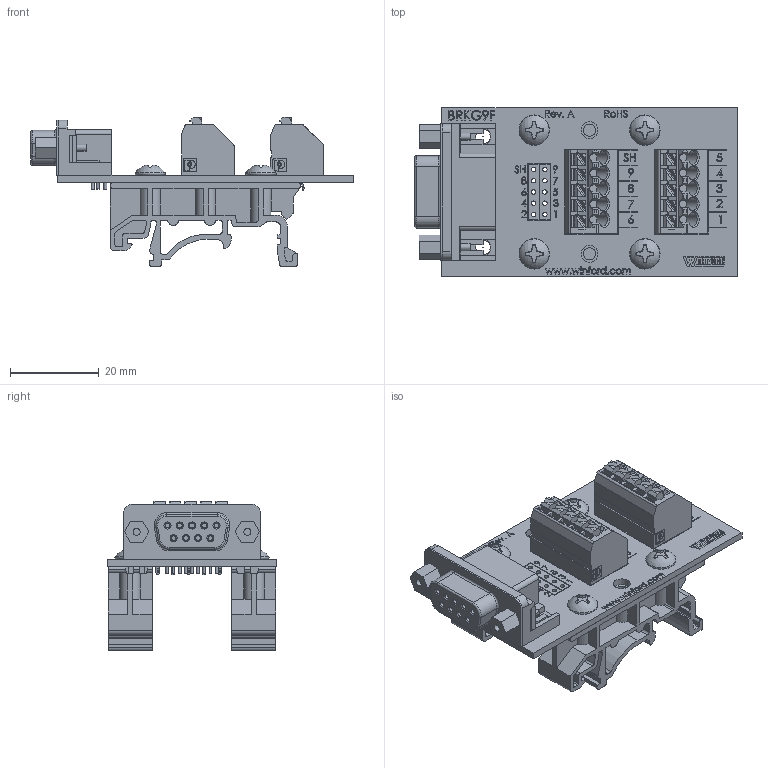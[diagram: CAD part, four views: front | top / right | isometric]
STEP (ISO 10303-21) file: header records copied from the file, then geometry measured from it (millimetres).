
FILE_DESCRIPTION (( 'STEP AP214' ), '1' );
FILE_NAME ('brkg9f-r-din_rev_a.step', '2017-05-12T02:02:47', ( '' ), ( '' ), 'SwSTEP 2.0', 'SolidWorks 2017', '' );
FILE_SCHEMA (( 'AUTOMOTIVE_DESIGN' ));
Length unit declared in the file: inch
Products named in the file (6): dinm01; Spring Terminal; BRKG9F Board; Screw_SCSMPP-6-0.375_90184A127; brkg9f-r-din_rev_a; Right Angle Female Connector
Assembly tree (10 placements, depth 2):
  brkg9f-r-din_rev_a
    BRKG9F Board
    dinm01  x2
    Right Angle Female Connector
    Screw_SCSMPP-6-0.375_90184A127  x4
    Spring Terminal  x2
Bounding box: 72.8 x 38.1 x 33.67 mm (x, y, z)
Volume: 17484 mm3; surface area: 22015 mm2
Topology: 25 solids, 25 shells, 2762 faces, 7459 edges, 4928 vertices
Faces by surface type: plane 1769, cylinder 526, bspline 358, cone 93, torus 12, sphere 4
Full cylindrical faces by diameter (mm): 0.025 x2, 0.457 x2, 0.635 x9, 1 x10, 1.016 x18, 1.04 x8, 1.041 x10, 1.092 x9, 1.14 x8, 1.38 x2, 1.47 x2, 1.587 x2, 1.588 x2, 2.75 x6, 3 x10, 3.302 x2, 3.81 x6
Entity records: 95467 total; most frequent: CARTESIAN_POINT 29879, ORIENTED_EDGE 10250, DIRECTION 8311, EDGE_CURVE 5125, LINE 3705, VECTOR 3705, VERTEX_POINT 3455, AXIS2_PLACEMENT_3D 2303
